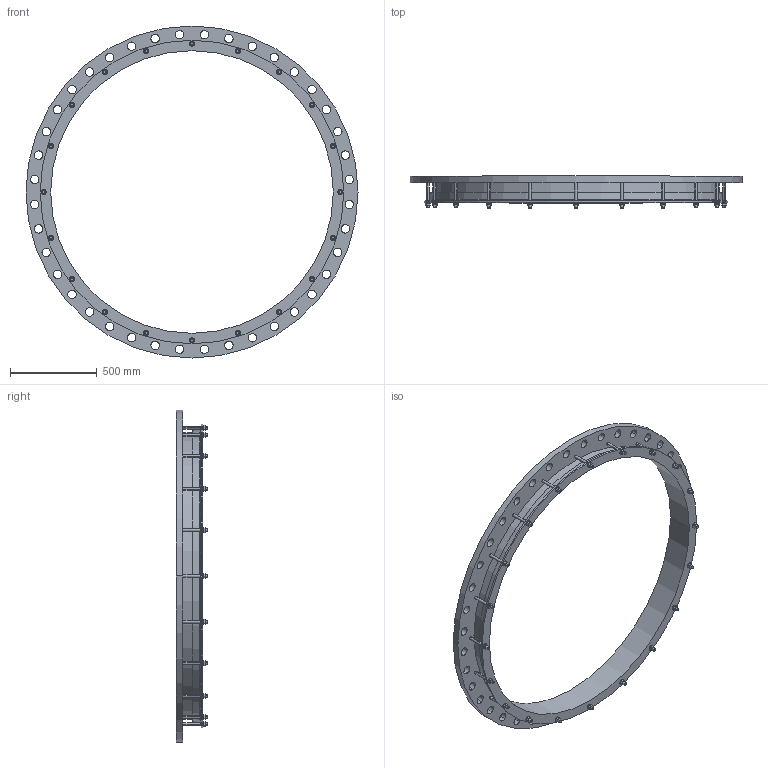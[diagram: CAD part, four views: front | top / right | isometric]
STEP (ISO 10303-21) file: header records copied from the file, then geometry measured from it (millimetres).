
FILE_DESCRIPTION((''),'2;1');
FILE_NAME('1626X1600PN10','2019-01-17T',('mfairey'),('Glynwed Pipe Systems'),'CREO PARAMETRIC BY PTC INC, 2016130','CREO PARAMETRIC BY PTC INC, 2016130','');
FILE_SCHEMA(('CONFIG_CONTROL_DESIGN'));
Length unit declared in the file: millimetre
Products named in the file (1): 1626X1600PN10
Bounding box: 1915 x 182 x 1915 mm (x, y, z)
Volume: 41126763.2 mm3; surface area: 3905176.7 mm2
Topology: 1 solids, 1 shells, 398 faces, 1058 edges, 704 vertices
Faces by surface type: cylinder 208, plane 184, cone 4, torus 2
Entity records: 14214 total; most frequent: CARTESIAN_POINT 3768, DIRECTION 2172, ORIENTED_EDGE 2116, EDGE_CURVE 1058, AXIS2_PLACEMENT_3D 800, VERTEX_POINT 704, VECTOR 572, LINE 572
